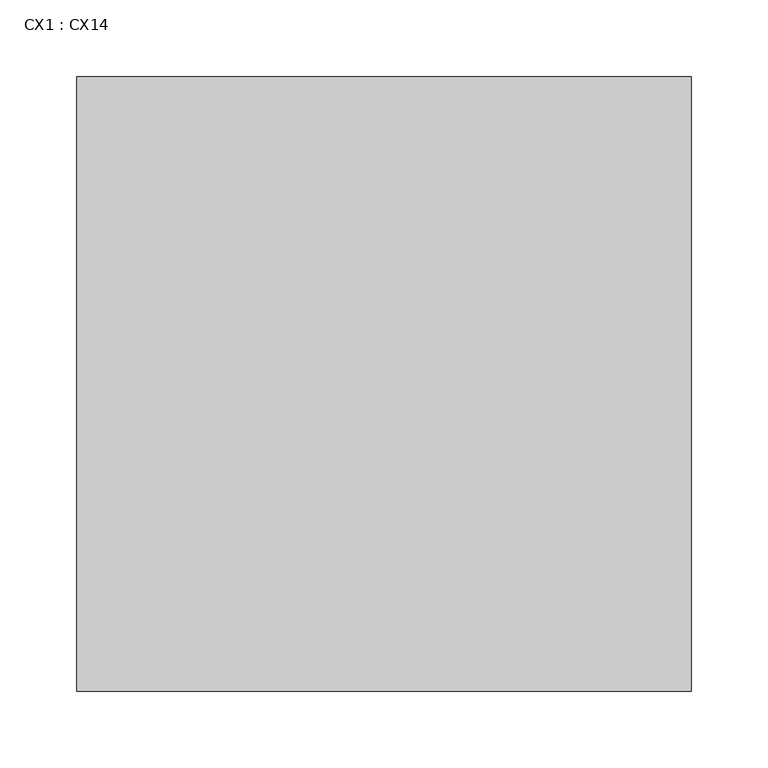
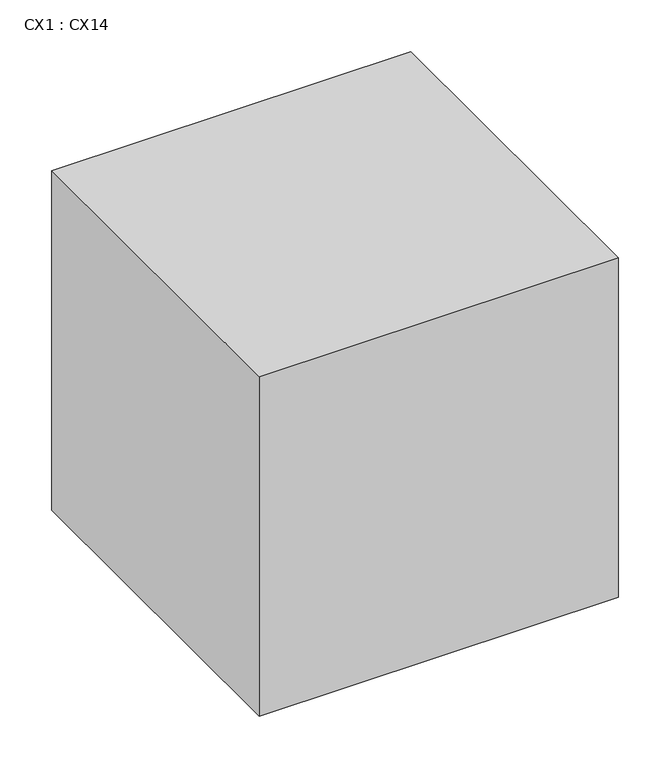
"""IFC4 building model written with IfcOpenShell, lengths in millimetres: proxy geometry, CX1 : CX14."""

from ifc_helpers import new_model, si_unit, frame, origin, place, context, project, spatial, polyline, outline, extrude, source, transform, mapped, element, save


def cx1_cx14_a8aa527d(model_context):
    return source(origin(), model_context, "Body", "SweptSolid", [
        extrude(outline(polyline([(21817.1746511, -2734.3278255), (22217.1746511, -2734.3278255), (22217.1746511, -3134.3278255), (21817.1746511, -3134.3278255), (21817.1746511, -2734.3278255)])), frame((0.0, 0.0, 1130.0), z_axis=(0.0, 0.0, 1.0), x_axis=(1.0, 0.0, 0.0)), (0.0, 0.0, 1.0), 400.0),
    ])


if __name__ == "__main__":
    model = new_model("IFC4")
    model_context = context("Model", 3, world=origin())
    ifc_project = project(units=[si_unit("LENGTHUNIT", "METRE", prefix="MILLI")], contexts=[model_context])
    site = spatial("IfcSite", under=ifc_project)
    building = spatial("IfcBuilding", under=site)
    placement = place(None, origin())
    cx1_cx14_shape = cx1_cx14_a8aa527d(model_context)
    element("IfcBuildingElementProxy", 1, Name="CX1 : CX14", ObjectType="CX1 : CX14", at=placement, inside=building, context=model_context, shape_type="MappedRepresentation", body=[
        mapped(cx1_cx14_shape, transform((0.0, 0.0, 0.0), x_axis=(1.0, 0.0, 0.0), y_axis=(0.0, 1.0, 0.0), z_axis=(0.0, 0.0, 1.0))),
    ])
    save(model, "model.ifc")
